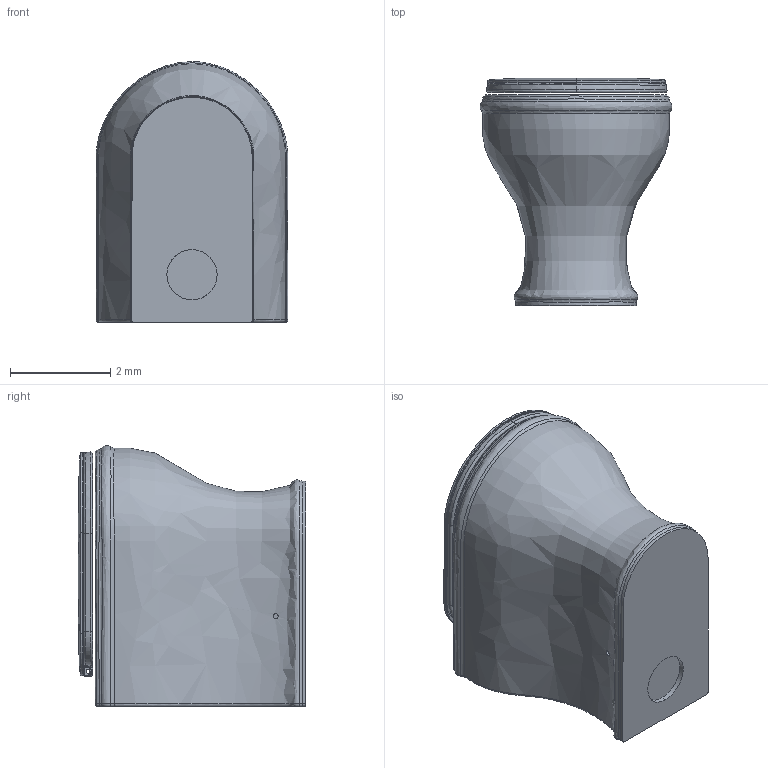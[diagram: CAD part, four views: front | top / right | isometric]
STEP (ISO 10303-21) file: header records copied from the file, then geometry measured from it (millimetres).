
FILE_DESCRIPTION(/* description */ (''),/* implementation_level */ '2;1');
FILE_NAME(/* name */ 'CHVCTP000000',/* time_stamp */ '2018-12-17T15:45:33+01:00',/* author */ (''),/* organization */ (''),/* preprocessor_version */ 'ST-DEVELOPER v15',/* originating_system */ '',/* authorisation */ '');
FILE_SCHEMA (('AUTOMOTIVE_DESIGN'));
Length unit declared in the file: centimetre
Products named in the file (1): Document
Bounding box: 3.83 x 4.54 x 5.2 mm (x, y, z)
Volume: 39.8 mm3; surface area: 159.9 mm2
Topology: 1 solids, 3 shells, 251 faces, 598 edges, 338 vertices
Faces by surface type: bspline 211, plane 40
Entity records: 34029 total; most frequent: CARTESIAN_POINT 30722, ORIENTED_EDGE 1146, EDGE_CURVE 581, VERTEX_POINT 339, B_SPLINE_CURVE_WITH_KNOTS 272, EDGE_LOOP 268, ADVANCED_FACE 251, FACE_OUTER_BOUND 251
